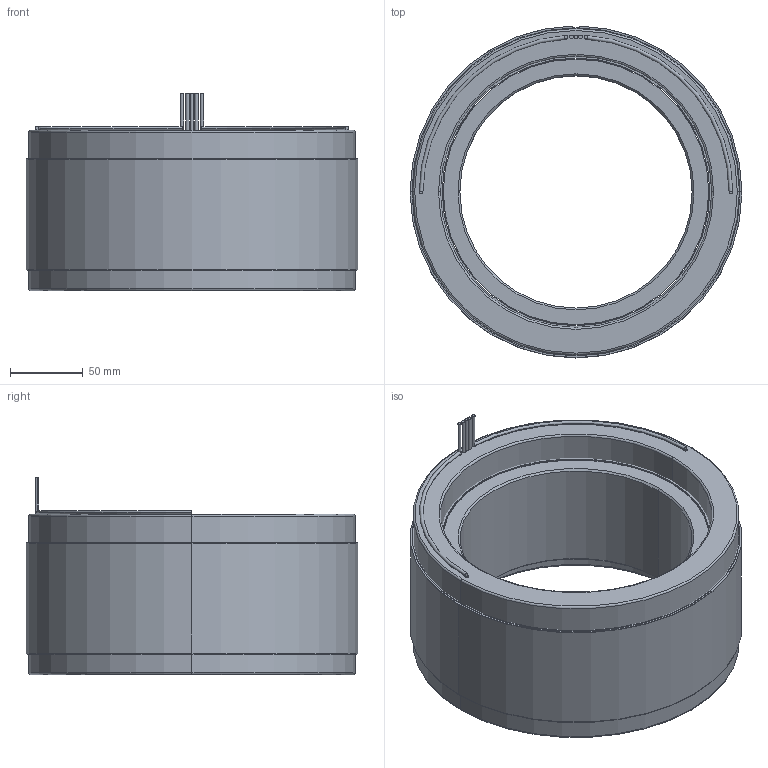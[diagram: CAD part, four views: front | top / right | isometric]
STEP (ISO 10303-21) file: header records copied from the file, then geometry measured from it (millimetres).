
FILE_DESCRIPTION (( 'STEP AP214' ), '1' );
FILE_NAME ('6100346-05.STEP', '2019-10-23T23:35:59', ( '' ), ( '' ), 'SwSTEP 2.0', 'SolidWorks 2016', '' );
FILE_SCHEMA (( 'AUTOMOTIVE_DESIGN' ));
Length unit declared in the file: millimetre
Products named in the file (10): 4150170-XX_4150170-05; 4400076-00; 4600525-00; 4250365-XX_4250365-05; 4500545-XX_4500545-05; 4450183-XX_4450183-05; 6100346-05; COMP4500545-XX(COIL)_COMP4500545-05(COIL)
Assembly tree (10 placements, depth 4):
  6100346-05
    4500545-XX_4500545-05
      COMP4500545-XX(COIL)_COMP4500545-05(COIL)
      4450183-XX_4450183-05
        4450183-XX_4450183-05
        4400076-00
        4400076-00
        4600525-00  x2
    4250365-XX_4250365-05
      4150170-XX_4150170-05
Bounding box: 228.6 x 228.58 x 135.89 mm (x, y, z)
Volume: 2927158.8 mm3; surface area: 503553.5 mm2
Topology: 14 solids, 14 shells, 98 faces, 192 edges, 124 vertices
Faces by surface type: cylinder 52, plane 30, torus 12, cone 4
Entity records: 2875 total; most frequent: DIRECTION 524, CARTESIAN_POINT 404, ORIENTED_EDGE 360, AXIS2_PLACEMENT_3D 236, EDGE_CURVE 180, CIRCLE 128, VERTEX_POINT 116, EDGE_LOOP 106
